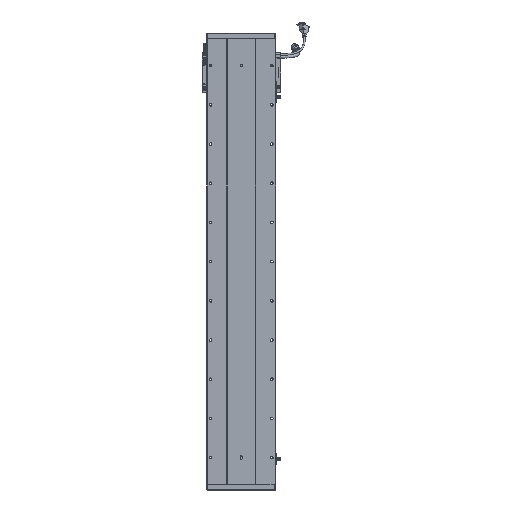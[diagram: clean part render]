
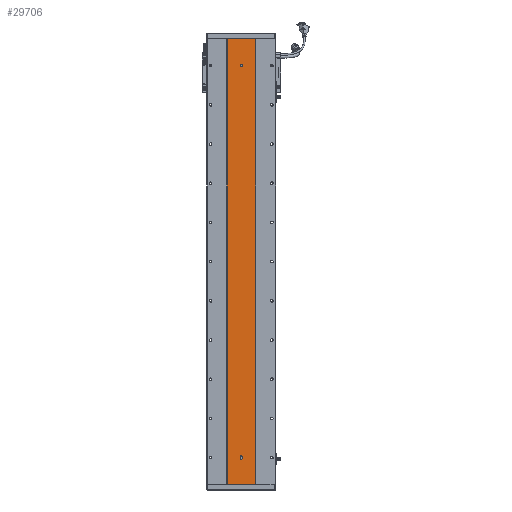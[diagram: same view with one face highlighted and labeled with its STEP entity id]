
A CAD part, front view. The second image highlights one B-rep face of the part: STEP entity #29706.
In plain terms, the highlighted planar face has unit normal (0, -1, 0).
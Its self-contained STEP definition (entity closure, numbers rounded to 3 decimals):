
#200 = CARTESIAN_POINT ( 'NONE',  ( 3283.529, 1415.701, 67. ) ) ;
#516 = ORIENTED_EDGE ( 'NONE', *, *, #73319, .F. ) ;
#963 = LINE ( 'NONE', #29064, #64728 ) ;
#1987 = DIRECTION ( 'NONE',  ( 0., 0., -1. ) ) ;
#3322 = VERTEX_POINT ( 'NONE', #79405 ) ;
#3762 = VERTEX_POINT ( 'NONE', #51447 ) ;
#3787 = AXIS2_PLACEMENT_3D ( 'NONE', #44236, #51071, #30517 ) ;
#4230 = LINE ( 'NONE', #35015, #62728 ) ;
#4643 = PLANE ( 'NONE',  #64578 ) ;
#6139 = VERTEX_POINT ( 'NONE', #200 ) ;
#8267 = ORIENTED_EDGE ( 'NONE', *, *, #69717, .F. ) ;
#9164 = DIRECTION ( 'NONE',  ( 0., 0., -1. ) ) ;
#10659 = ORIENTED_EDGE ( 'NONE', *, *, #62769, .T. ) ;
#11609 = VERTEX_POINT ( 'NONE', #18010 ) ;
#12088 = DIRECTION ( 'NONE',  ( 0., 1., 0. ) ) ;
#12706 = DIRECTION ( 'NONE',  ( 1., 0., 0. ) ) ;
#13272 = LINE ( 'NONE', #46190, #28070 ) ;
#13386 = ORIENTED_EDGE ( 'NONE', *, *, #39095, .F. ) ;
#14902 = VECTOR ( 'NONE', #1987, 1000. ) ;
#17005 = LINE ( 'NONE', #42699, #14902 ) ;
#17048 = EDGE_LOOP ( 'NONE', ( #10659, #31365, #17430, #51192 ) ) ;
#17414 = CARTESIAN_POINT ( 'NONE',  ( 3277.529, 1415.701, 67. ) ) ;
#17430 = ORIENTED_EDGE ( 'NONE', *, *, #64798, .F. ) ;
#17601 = CIRCLE ( 'NONE', #73024, 3. ) ;
#18010 = CARTESIAN_POINT ( 'NONE',  ( 3280.529, 1415.701, 1065.5 ) ) ;
#18302 = CIRCLE ( 'NONE', #50689, 3. ) ;
#18417 = CARTESIAN_POINT ( 'NONE',  ( 3244.748, 1415.701, 1137. ) ) ;
#23063 = VECTOR ( 'NONE', #36441, 1000. ) ;
#23632 = EDGE_CURVE ( 'NONE', #41047, #6139, #75661, .T. ) ;
#23666 = FACE_BOUND ( 'NONE', #56486, .T. ) ;
#25051 = VERTEX_POINT ( 'NONE', #18417 ) ;
#25386 = ORIENTED_EDGE ( 'NONE', *, *, #75604, .F. ) ;
#27945 = CARTESIAN_POINT ( 'NONE',  ( 3280.529, 1415.701, 70. ) ) ;
#28070 = VECTOR ( 'NONE', #73471, 1000. ) ;
#29064 = CARTESIAN_POINT ( 'NONE',  ( 3283.529, 1415.701, 70. ) ) ;
#29657 = ORIENTED_EDGE ( 'NONE', *, *, #76914, .F. ) ;
#29706 = ADVANCED_FACE ( 'NONE', ( #30066, #23666, #79995 ), #4643, .F. ) ;
#30066 = FACE_BOUND ( 'NONE', #69618, .T. ) ;
#30517 = DIRECTION ( 'NONE',  ( 0., 0., -1. ) ) ;
#31365 = ORIENTED_EDGE ( 'NONE', *, *, #78841, .F. ) ;
#31454 = CARTESIAN_POINT ( 'NONE',  ( 3316.311, 1415.701, 0. ) ) ;
#34075 = AXIS2_PLACEMENT_3D ( 'NONE', #54109, #62115, #69808 ) ;
#35015 = CARTESIAN_POINT ( 'NONE',  ( 3244.748, 1415.701, 0. ) ) ;
#36441 = DIRECTION ( 'NONE',  ( 0., 0., -1. ) ) ;
#36717 = AXIS2_PLACEMENT_3D ( 'NONE', #74165, #79796, #87186 ) ;
#36720 = EDGE_CURVE ( 'NONE', #76980, #41047, #17601, .T. ) ;
#37097 = DIRECTION ( 'NONE',  ( 0., -1., 0. ) ) ;
#37912 = LINE ( 'NONE', #79526, #47486 ) ;
#39095 = EDGE_CURVE ( 'NONE', #3322, #11609, #56075, .T. ) ;
#40131 = DIRECTION ( 'NONE',  ( 0., -1., 0. ) ) ;
#40229 = VERTEX_POINT ( 'NONE', #46682 ) ;
#41047 = VERTEX_POINT ( 'NONE', #76984 ) ;
#42699 = CARTESIAN_POINT ( 'NONE',  ( 3277.529, 1415.701, 70. ) ) ;
#44236 = CARTESIAN_POINT ( 'NONE',  ( 3280.529, 1415.701, 1068.5 ) ) ;
#46190 = CARTESIAN_POINT ( 'NONE',  ( 3316.311, 1415.701, 1137. ) ) ;
#46682 = CARTESIAN_POINT ( 'NONE',  ( 3316.311, 1415.701, 1137. ) ) ;
#46987 = DIRECTION ( 'NONE',  ( 0., 0., -1. ) ) ;
#47486 = VECTOR ( 'NONE', #12706, 1000. ) ;
#49027 = DIRECTION ( 'NONE',  ( 0., 0., 1. ) ) ;
#50689 = AXIS2_PLACEMENT_3D ( 'NONE', #27945, #40131, #46987 ) ;
#51071 = DIRECTION ( 'NONE',  ( 0., -1., 0. ) ) ;
#51192 = ORIENTED_EDGE ( 'NONE', *, *, #84355, .T. ) ;
#51447 = CARTESIAN_POINT ( 'NONE',  ( 3244.748, 1415.701, 0. ) ) ;
#51847 = LINE ( 'NONE', #70323, #23063 ) ;
#52808 = CARTESIAN_POINT ( 'NONE',  ( 3244.748, 1415.701, 1137. ) ) ;
#54109 = CARTESIAN_POINT ( 'NONE',  ( 3280.529, 1415.701, 67. ) ) ;
#56075 = CIRCLE ( 'NONE', #36717, 3. ) ;
#56486 = EDGE_LOOP ( 'NONE', ( #516, #13386 ) ) ;
#56754 = CARTESIAN_POINT ( 'NONE',  ( 3280.529, 1415.701, 67. ) ) ;
#62115 = DIRECTION ( 'NONE',  ( 0., -1., 0. ) ) ;
#62728 = VECTOR ( 'NONE', #82234, 1000. ) ;
#62769 = EDGE_CURVE ( 'NONE', #3762, #83906, #4230, .T. ) ;
#63064 = CARTESIAN_POINT ( 'NONE',  ( 3283.529, 1415.701, 70. ) ) ;
#64578 = AXIS2_PLACEMENT_3D ( 'NONE', #52808, #12088, #66477 ) ;
#64728 = VECTOR ( 'NONE', #49027, 1000. ) ;
#64798 = EDGE_CURVE ( 'NONE', #25051, #40229, #37912, .T. ) ;
#65467 = VERTEX_POINT ( 'NONE', #69741 ) ;
#66477 = DIRECTION ( 'NONE',  ( 0., 0., 1. ) ) ;
#69284 = ORIENTED_EDGE ( 'NONE', *, *, #36720, .F. ) ;
#69618 = EDGE_LOOP ( 'NONE', ( #69284, #29657, #25386, #8267, #85691 ) ) ;
#69717 = EDGE_CURVE ( 'NONE', #6139, #82587, #963, .T. ) ;
#69741 = CARTESIAN_POINT ( 'NONE',  ( 3277.529, 1415.701, 70. ) ) ;
#69808 = DIRECTION ( 'NONE',  ( 0., 0., -1. ) ) ;
#70323 = CARTESIAN_POINT ( 'NONE',  ( 3244.748, 1415.701, 1137. ) ) ;
#73024 = AXIS2_PLACEMENT_3D ( 'NONE', #56754, #37097, #9164 ) ;
#73319 = EDGE_CURVE ( 'NONE', #11609, #3322, #73856, .T. ) ;
#73471 = DIRECTION ( 'NONE',  ( 0., 0., -1. ) ) ;
#73856 = CIRCLE ( 'NONE', #3787, 3. ) ;
#74165 = CARTESIAN_POINT ( 'NONE',  ( 3280.529, 1415.701, 1068.5 ) ) ;
#75604 = EDGE_CURVE ( 'NONE', #82587, #65467, #18302, .T. ) ;
#75661 = CIRCLE ( 'NONE', #34075, 3. ) ;
#76914 = EDGE_CURVE ( 'NONE', #65467, #76980, #17005, .T. ) ;
#76980 = VERTEX_POINT ( 'NONE', #17414 ) ;
#76984 = CARTESIAN_POINT ( 'NONE',  ( 3280.529, 1415.701, 64. ) ) ;
#78841 = EDGE_CURVE ( 'NONE', #40229, #83906, #13272, .T. ) ;
#79405 = CARTESIAN_POINT ( 'NONE',  ( 3280.529, 1415.701, 1071.5 ) ) ;
#79526 = CARTESIAN_POINT ( 'NONE',  ( 3244.748, 1415.701, 1137. ) ) ;
#79796 = DIRECTION ( 'NONE',  ( 0., -1., 0. ) ) ;
#79995 = FACE_OUTER_BOUND ( 'NONE', #17048, .T. ) ;
#82234 = DIRECTION ( 'NONE',  ( 1., 0., 0. ) ) ;
#82587 = VERTEX_POINT ( 'NONE', #63064 ) ;
#83906 = VERTEX_POINT ( 'NONE', #31454 ) ;
#84355 = EDGE_CURVE ( 'NONE', #25051, #3762, #51847, .T. ) ;
#85691 = ORIENTED_EDGE ( 'NONE', *, *, #23632, .F. ) ;
#87186 = DIRECTION ( 'NONE',  ( 0., 0., -1. ) ) ;
